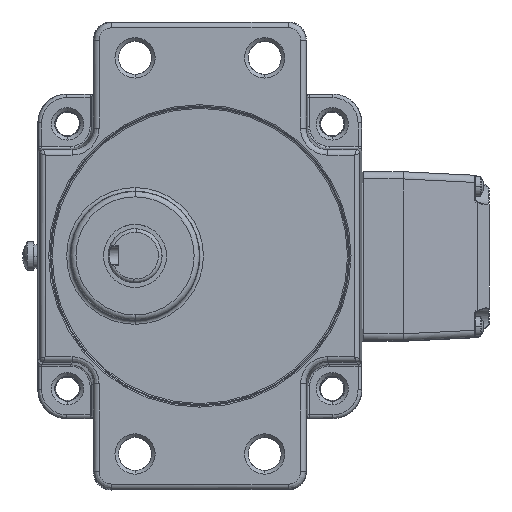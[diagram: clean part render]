
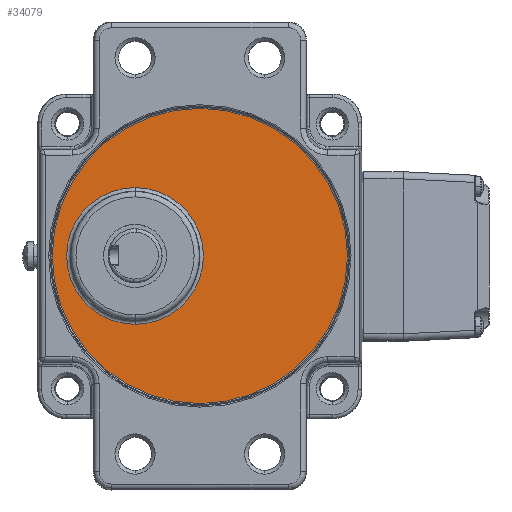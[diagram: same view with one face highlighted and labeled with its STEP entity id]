
A CAD part, top view. The second image highlights one B-rep face of the part: STEP entity #34079.
In plain terms, the highlighted planar face has unit normal (0, 0, 1) as drawn and (0, 0, -1) by its records, which use the part's own axes.
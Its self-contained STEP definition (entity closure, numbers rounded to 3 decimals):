
#1044 = DIRECTION ( 'NONE',  ( 1., 0., 0. ) ) ;
#2026 = ORIENTED_EDGE ( 'NONE', *, *, #32221, .T. ) ;
#2825 = ORIENTED_EDGE ( 'NONE', *, *, #29611, .F. ) ;
#3379 = DIRECTION ( 'NONE',  ( 0., 0., -1. ) ) ;
#4061 = DIRECTION ( 'NONE',  ( -1., 0., 0. ) ) ;
#5137 = AXIS2_PLACEMENT_3D ( 'NONE', #38788, #49834, #13342 ) ;
#7899 = CARTESIAN_POINT ( 'NONE',  ( -18.986, 18., -65. ) ) ;
#8332 = DIRECTION ( 'NONE',  ( 0., 0., -1. ) ) ;
#9006 = FACE_BOUND ( 'NONE', #30853, .T. ) ;
#13342 = DIRECTION ( 'NONE',  ( 1., 0., 0. ) ) ;
#13472 = VERTEX_POINT ( 'NONE', #51358 ) ;
#15860 = AXIS2_PLACEMENT_3D ( 'NONE', #40518, #49553, #55583 ) ;
#18361 = FACE_OUTER_BOUND ( 'NONE', #51585, .T. ) ;
#19900 = DIRECTION ( 'NONE',  ( 0., 0., -1. ) ) ;
#21096 = CARTESIAN_POINT ( 'NONE',  ( 40.991, 0., -65. ) ) ;
#21591 = CARTESIAN_POINT ( 'NONE',  ( -40.991, 0., -65. ) ) ;
#28512 = CIRCLE ( 'NONE', #61653, 18.986 ) ;
#29075 = DIRECTION ( 'NONE',  ( 1., 0., 0. ) ) ;
#29426 = PLANE ( 'NONE',  #5137 ) ;
#29611 = EDGE_CURVE ( 'NONE', #13472, #64417, #28512, .T. ) ;
#30177 = CARTESIAN_POINT ( 'NONE',  ( 0., 18., -65. ) ) ;
#30853 = EDGE_LOOP ( 'NONE', ( #2825, #60931 ) ) ;
#32221 = EDGE_CURVE ( 'NONE', #51927, #57122, #57519, .T. ) ;
#34079 = ADVANCED_FACE ( 'NONE', ( #18361, #9006 ), #29426, .F. ) ;
#34430 = CARTESIAN_POINT ( 'NONE',  ( 0., 0., -65. ) ) ;
#38788 = CARTESIAN_POINT ( 'NONE',  ( 0., 0., -65. ) ) ;
#38873 = AXIS2_PLACEMENT_3D ( 'NONE', #34430, #8332, #29075 ) ;
#40518 = CARTESIAN_POINT ( 'NONE',  ( 0., 0., -65. ) ) ;
#41188 = EDGE_CURVE ( 'NONE', #57122, #51927, #63482, .T. ) ;
#49553 = DIRECTION ( 'NONE',  ( 0., 0., -1. ) ) ;
#49834 = DIRECTION ( 'NONE',  ( 0., 0., 1. ) ) ;
#51358 = CARTESIAN_POINT ( 'NONE',  ( 18.986, 18., -65. ) ) ;
#51585 = EDGE_LOOP ( 'NONE', ( #2026, #64650 ) ) ;
#51927 = VERTEX_POINT ( 'NONE', #21591 ) ;
#55583 = DIRECTION ( 'NONE',  ( -1., 0., 0. ) ) ;
#56594 = CIRCLE ( 'NONE', #65144, 18.986 ) ;
#56938 = CARTESIAN_POINT ( 'NONE',  ( 0., 18., -65. ) ) ;
#57122 = VERTEX_POINT ( 'NONE', #21096 ) ;
#57519 = CIRCLE ( 'NONE', #15860, 40.991 ) ;
#60931 = ORIENTED_EDGE ( 'NONE', *, *, #61159, .F. ) ;
#61159 = EDGE_CURVE ( 'NONE', #64417, #13472, #56594, .T. ) ;
#61653 = AXIS2_PLACEMENT_3D ( 'NONE', #56938, #19900, #1044 ) ;
#63482 = CIRCLE ( 'NONE', #38873, 40.991 ) ;
#64417 = VERTEX_POINT ( 'NONE', #7899 ) ;
#64650 = ORIENTED_EDGE ( 'NONE', *, *, #41188, .T. ) ;
#65144 = AXIS2_PLACEMENT_3D ( 'NONE', #30177, #3379, #4061 ) ;
